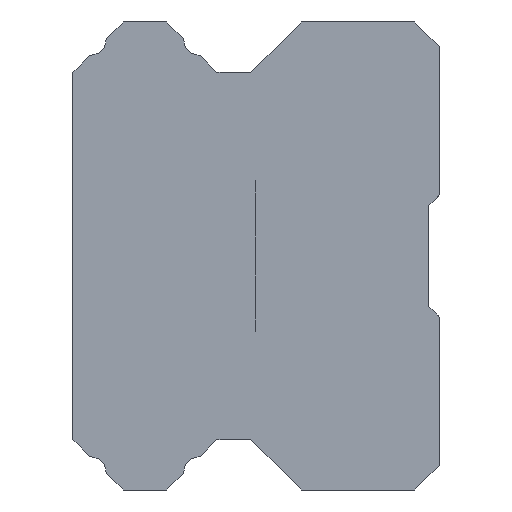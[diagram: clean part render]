
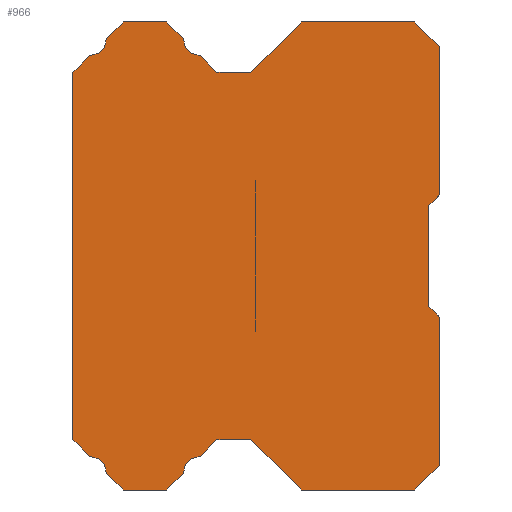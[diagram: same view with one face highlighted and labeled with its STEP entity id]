
A CAD part, left-side view. The second image highlights one B-rep face of the part: STEP entity #966.
In plain terms, the highlighted planar face has unit normal (-1, 0, 0).
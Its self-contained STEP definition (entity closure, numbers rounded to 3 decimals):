
#85 = VERTEX_POINT('',#86);
#86 = CARTESIAN_POINT('',(-20.,18.,9.022));
#101 = VERTEX_POINT('',#102);
#102 = CARTESIAN_POINT('',(-20.,18.,-9.022));
#108 = EDGE_CURVE('',#85,#101,#109,.T.);
#109 = LINE('',#110,#111);
#110 = CARTESIAN_POINT('',(-20.,18.,10.5));
#111 = VECTOR('',#112,1.);
#112 = DIRECTION('',(0.,-0.,-1.));
#948 = EDGE_CURVE('',#949,#85,#951,.T.);
#949 = VERTEX_POINT('',#950);
#950 = CARTESIAN_POINT('',(-20.,17.174,9.848));
#951 = LINE('',#952,#953);
#952 = CARTESIAN_POINT('',(-20.,6.299,20.723));
#953 = VECTOR('',#954,1.);
#954 = DIRECTION('',(0.,0.707,-0.707));
#966 = ADVANCED_FACE('',(#967),#1181,.F.);
#967 = FACE_BOUND('',#968,.F.);
#968 = EDGE_LOOP('',(#969,#979,#988,#996,#1004,#1012,#1021,#1027,#1028,
    #1029,#1038,#1046,#1054,#1062,#1071,#1079,#1087,#1095,#1103,#1111,
    #1119,#1127,#1135,#1143,#1151,#1159,#1167,#1175));
#969 = ORIENTED_EDGE('',*,*,#970,.F.);
#970 = EDGE_CURVE('',#971,#973,#975,.T.);
#971 = VERTEX_POINT('',#972);
#972 = CARTESIAN_POINT('',(-20.,11.746,-9.848));
#973 = VERTEX_POINT('',#974);
#974 = CARTESIAN_POINT('',(-20.,10.92,-9.022));
#975 = LINE('',#976,#977);
#976 = CARTESIAN_POINT('',(-20.,-3.109,5.007));
#977 = VECTOR('',#978,1.);
#978 = DIRECTION('',(0.,-0.707,0.707));
#979 = ORIENTED_EDGE('',*,*,#980,.F.);
#980 = EDGE_CURVE('',#981,#971,#983,.T.);
#981 = VERTEX_POINT('',#982);
#982 = CARTESIAN_POINT('',(-20.,12.572,-10.674));
#983 = CIRCLE('',#984,0.812);
#984 = AXIS2_PLACEMENT_3D('',#985,#986,#987);
#985 = CARTESIAN_POINT('',(-20.,11.76,-10.66));
#986 = DIRECTION('',(1.,-0.,0.));
#987 = DIRECTION('',(0.,0.,-1.));
#988 = ORIENTED_EDGE('',*,*,#989,.F.);
#989 = EDGE_CURVE('',#990,#981,#992,.T.);
#990 = VERTEX_POINT('',#991);
#991 = CARTESIAN_POINT('',(-20.,13.398,-11.5));
#992 = LINE('',#993,#994);
#993 = CARTESIAN_POINT('',(-20.,-2.283,4.181));
#994 = VECTOR('',#995,1.);
#995 = DIRECTION('',(0.,-0.707,0.707));
#996 = ORIENTED_EDGE('',*,*,#997,.F.);
#997 = EDGE_CURVE('',#998,#990,#1000,.T.);
#998 = VERTEX_POINT('',#999);
#999 = CARTESIAN_POINT('',(-20.,15.522,-11.5));
#1000 = LINE('',#1001,#1002);
#1001 = CARTESIAN_POINT('',(-20.,-0.77,-11.5));
#1002 = VECTOR('',#1003,1.);
#1003 = DIRECTION('',(0.,-1.,0.));
#1004 = ORIENTED_EDGE('',*,*,#1005,.F.);
#1005 = EDGE_CURVE('',#1006,#998,#1008,.T.);
#1006 = VERTEX_POINT('',#1007);
#1007 = CARTESIAN_POINT('',(-20.,16.348,-10.674));
#1008 = LINE('',#1009,#1010);
#1009 = CARTESIAN_POINT('',(-20.,15.973,-11.049));
#1010 = VECTOR('',#1011,1.);
#1011 = DIRECTION('',(0.,-0.707,-0.707));
#1012 = ORIENTED_EDGE('',*,*,#1013,.F.);
#1013 = EDGE_CURVE('',#1014,#1006,#1016,.T.);
#1014 = VERTEX_POINT('',#1015);
#1015 = CARTESIAN_POINT('',(-20.,17.174,-9.848));
#1016 = CIRCLE('',#1017,0.812);
#1017 = AXIS2_PLACEMENT_3D('',#1018,#1019,#1020);
#1018 = CARTESIAN_POINT('',(-20.,17.16,-10.66));
#1019 = DIRECTION('',(1.,-0.,0.));
#1020 = DIRECTION('',(0.,0.,-1.));
#1021 = ORIENTED_EDGE('',*,*,#1022,.F.);
#1022 = EDGE_CURVE('',#101,#1014,#1023,.T.);
#1023 = LINE('',#1024,#1025);
#1024 = CARTESIAN_POINT('',(-20.,16.799,-10.223));
#1025 = VECTOR('',#1026,1.);
#1026 = DIRECTION('',(0.,-0.707,-0.707));
#1027 = ORIENTED_EDGE('',*,*,#108,.F.);
#1028 = ORIENTED_EDGE('',*,*,#948,.F.);
#1029 = ORIENTED_EDGE('',*,*,#1030,.F.);
#1030 = EDGE_CURVE('',#1031,#949,#1033,.T.);
#1031 = VERTEX_POINT('',#1032);
#1032 = CARTESIAN_POINT('',(-20.,16.348,10.674));
#1033 = CIRCLE('',#1034,0.812);
#1034 = AXIS2_PLACEMENT_3D('',#1035,#1036,#1037);
#1035 = CARTESIAN_POINT('',(-20.,17.16,10.66));
#1036 = DIRECTION('',(1.,-0.,0.));
#1037 = DIRECTION('',(0.,0.,-1.));
#1038 = ORIENTED_EDGE('',*,*,#1039,.F.);
#1039 = EDGE_CURVE('',#1040,#1031,#1042,.T.);
#1040 = VERTEX_POINT('',#1041);
#1041 = CARTESIAN_POINT('',(-20.,15.522,11.5));
#1042 = LINE('',#1043,#1044);
#1043 = CARTESIAN_POINT('',(-20.,5.473,21.549));
#1044 = VECTOR('',#1045,1.);
#1045 = DIRECTION('',(0.,0.707,-0.707));
#1046 = ORIENTED_EDGE('',*,*,#1047,.F.);
#1047 = EDGE_CURVE('',#1048,#1040,#1050,.T.);
#1048 = VERTEX_POINT('',#1049);
#1049 = CARTESIAN_POINT('',(-20.,13.398,11.5));
#1050 = LINE('',#1051,#1052);
#1051 = CARTESIAN_POINT('',(-20.,-0.77,11.5));
#1052 = VECTOR('',#1053,1.);
#1053 = DIRECTION('',(0.,1.,0.));
#1054 = ORIENTED_EDGE('',*,*,#1055,.F.);
#1055 = EDGE_CURVE('',#1056,#1048,#1058,.T.);
#1056 = VERTEX_POINT('',#1057);
#1057 = CARTESIAN_POINT('',(-20.,12.572,10.674));
#1058 = LINE('',#1059,#1060);
#1059 = CARTESIAN_POINT('',(-20.,8.217,6.319));
#1060 = VECTOR('',#1061,1.);
#1061 = DIRECTION('',(0.,0.707,0.707));
#1062 = ORIENTED_EDGE('',*,*,#1063,.F.);
#1063 = EDGE_CURVE('',#1064,#1056,#1066,.T.);
#1064 = VERTEX_POINT('',#1065);
#1065 = CARTESIAN_POINT('',(-20.,11.746,9.848));
#1066 = CIRCLE('',#1067,0.812);
#1067 = AXIS2_PLACEMENT_3D('',#1068,#1069,#1070);
#1068 = CARTESIAN_POINT('',(-20.,11.76,10.66));
#1069 = DIRECTION('',(1.,-0.,0.));
#1070 = DIRECTION('',(0.,0.,-1.));
#1071 = ORIENTED_EDGE('',*,*,#1072,.F.);
#1072 = EDGE_CURVE('',#1073,#1064,#1075,.T.);
#1073 = VERTEX_POINT('',#1074);
#1074 = CARTESIAN_POINT('',(-20.,10.92,9.022));
#1075 = LINE('',#1076,#1077);
#1076 = CARTESIAN_POINT('',(-20.,7.391,5.493));
#1077 = VECTOR('',#1078,1.);
#1078 = DIRECTION('',(0.,0.707,0.707));
#1079 = ORIENTED_EDGE('',*,*,#1080,.F.);
#1080 = EDGE_CURVE('',#1081,#1073,#1083,.T.);
#1081 = VERTEX_POINT('',#1082);
#1082 = CARTESIAN_POINT('',(-20.,9.253,9.022));
#1083 = LINE('',#1084,#1085);
#1084 = CARTESIAN_POINT('',(-20.,-2.957,9.022));
#1085 = VECTOR('',#1086,1.);
#1086 = DIRECTION('',(0.,1.,0.));
#1087 = ORIENTED_EDGE('',*,*,#1088,.F.);
#1088 = EDGE_CURVE('',#1089,#1081,#1091,.T.);
#1089 = VERTEX_POINT('',#1090);
#1090 = CARTESIAN_POINT('',(-20.,6.775,11.5));
#1091 = LINE('',#1092,#1093);
#1092 = CARTESIAN_POINT('',(-20.,-0.674,18.949));
#1093 = VECTOR('',#1094,1.);
#1094 = DIRECTION('',(0.,0.707,-0.707));
#1095 = ORIENTED_EDGE('',*,*,#1096,.F.);
#1096 = EDGE_CURVE('',#1097,#1089,#1099,.T.);
#1097 = VERTEX_POINT('',#1098);
#1098 = CARTESIAN_POINT('',(-20.,1.2,11.5));
#1099 = LINE('',#1100,#1101);
#1100 = CARTESIAN_POINT('',(-20.,-6.006,11.5));
#1101 = VECTOR('',#1102,1.);
#1102 = DIRECTION('',(0.,1.,0.));
#1103 = ORIENTED_EDGE('',*,*,#1104,.F.);
#1104 = EDGE_CURVE('',#1105,#1097,#1107,.T.);
#1105 = VERTEX_POINT('',#1106);
#1106 = CARTESIAN_POINT('',(-20.,0.,10.3));
#1107 = LINE('',#1108,#1109);
#1108 = CARTESIAN_POINT('',(-20.,-1.025,9.275));
#1109 = VECTOR('',#1110,1.);
#1110 = DIRECTION('',(0.,0.707,0.707));
#1111 = ORIENTED_EDGE('',*,*,#1112,.F.);
#1112 = EDGE_CURVE('',#1113,#1105,#1115,.T.);
#1113 = VERTEX_POINT('',#1114);
#1114 = CARTESIAN_POINT('',(-20.,0.,3.));
#1115 = LINE('',#1116,#1117);
#1116 = CARTESIAN_POINT('',(-20.,0.,13.827));
#1117 = VECTOR('',#1118,1.);
#1118 = DIRECTION('',(0.,0.,1.));
#1119 = ORIENTED_EDGE('',*,*,#1120,.T.);
#1120 = EDGE_CURVE('',#1113,#1121,#1123,.T.);
#1121 = VERTEX_POINT('',#1122);
#1122 = CARTESIAN_POINT('',(-20.,0.5,2.5));
#1123 = LINE('',#1124,#1125);
#1124 = CARTESIAN_POINT('',(-20.,-8.5,11.5));
#1125 = VECTOR('',#1126,1.);
#1126 = DIRECTION('',(0.,0.707,-0.707));
#1127 = ORIENTED_EDGE('',*,*,#1128,.T.);
#1128 = EDGE_CURVE('',#1121,#1129,#1131,.T.);
#1129 = VERTEX_POINT('',#1130);
#1130 = CARTESIAN_POINT('',(-20.,0.5,-2.5));
#1131 = LINE('',#1132,#1133);
#1132 = CARTESIAN_POINT('',(-20.,0.5,11.75));
#1133 = VECTOR('',#1134,1.);
#1134 = DIRECTION('',(0.,0.,-1.));
#1135 = ORIENTED_EDGE('',*,*,#1136,.T.);
#1136 = EDGE_CURVE('',#1129,#1137,#1139,.T.);
#1137 = VERTEX_POINT('',#1138);
#1138 = CARTESIAN_POINT('',(-20.,0.,-3.));
#1139 = LINE('',#1140,#1141);
#1140 = CARTESIAN_POINT('',(-20.,2.25,-0.75));
#1141 = VECTOR('',#1142,1.);
#1142 = DIRECTION('',(0.,-0.707,-0.707));
#1143 = ORIENTED_EDGE('',*,*,#1144,.F.);
#1144 = EDGE_CURVE('',#1145,#1137,#1147,.T.);
#1145 = VERTEX_POINT('',#1146);
#1146 = CARTESIAN_POINT('',(-20.,0.,-10.3));
#1147 = LINE('',#1148,#1149);
#1148 = CARTESIAN_POINT('',(-20.,0.,7.173));
#1149 = VECTOR('',#1150,1.);
#1150 = DIRECTION('',(0.,0.,1.));
#1151 = ORIENTED_EDGE('',*,*,#1152,.F.);
#1152 = EDGE_CURVE('',#1153,#1145,#1155,.T.);
#1153 = VERTEX_POINT('',#1154);
#1154 = CARTESIAN_POINT('',(-20.,1.2,-11.5));
#1155 = LINE('',#1156,#1157);
#1156 = CARTESIAN_POINT('',(-20.,-11.525,1.225));
#1157 = VECTOR('',#1158,1.);
#1158 = DIRECTION('',(0.,-0.707,0.707));
#1159 = ORIENTED_EDGE('',*,*,#1160,.F.);
#1160 = EDGE_CURVE('',#1161,#1153,#1163,.T.);
#1161 = VERTEX_POINT('',#1162);
#1162 = CARTESIAN_POINT('',(-20.,6.775,-11.5));
#1163 = LINE('',#1164,#1165);
#1164 = CARTESIAN_POINT('',(-20.,-6.006,-11.5));
#1165 = VECTOR('',#1166,1.);
#1166 = DIRECTION('',(0.,-1.,0.));
#1167 = ORIENTED_EDGE('',*,*,#1168,.F.);
#1168 = EDGE_CURVE('',#1169,#1161,#1171,.T.);
#1169 = VERTEX_POINT('',#1170);
#1170 = CARTESIAN_POINT('',(-20.,9.253,-9.022));
#1171 = LINE('',#1172,#1173);
#1172 = CARTESIAN_POINT('',(-20.,9.826,-8.449));
#1173 = VECTOR('',#1174,1.);
#1174 = DIRECTION('',(0.,-0.707,-0.707));
#1175 = ORIENTED_EDGE('',*,*,#1176,.F.);
#1176 = EDGE_CURVE('',#973,#1169,#1177,.T.);
#1177 = LINE('',#1178,#1179);
#1178 = CARTESIAN_POINT('',(-20.,-2.957,-9.022));
#1179 = VECTOR('',#1180,1.);
#1180 = DIRECTION('',(-0.,-1.,-0.));
#1181 = PLANE('',#1182);
#1182 = AXIS2_PLACEMENT_3D('',#1183,#1184,#1185);
#1183 = CARTESIAN_POINT('',(-20.,-16.,21.));
#1184 = DIRECTION('',(1.,0.,0.));
#1185 = DIRECTION('',(0.,0.,-1.));
